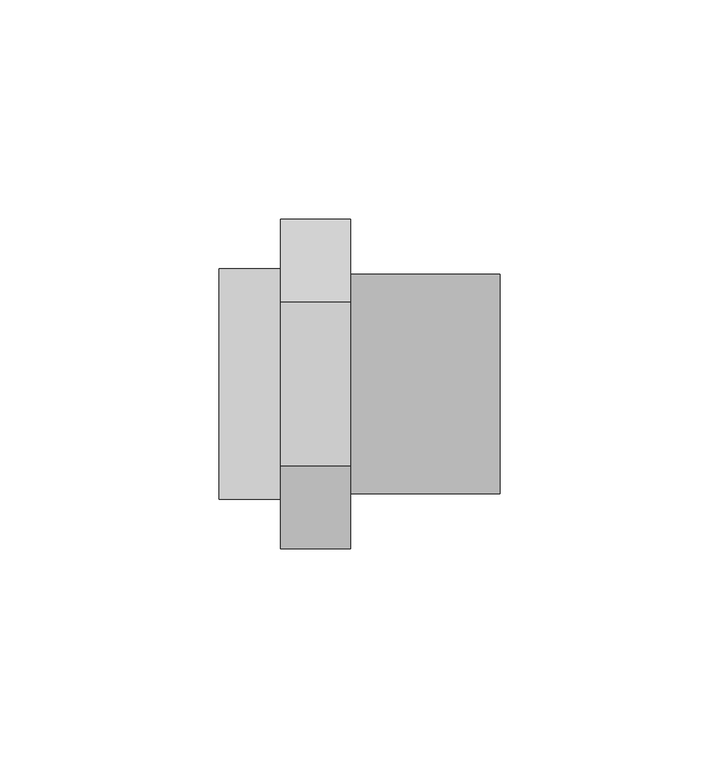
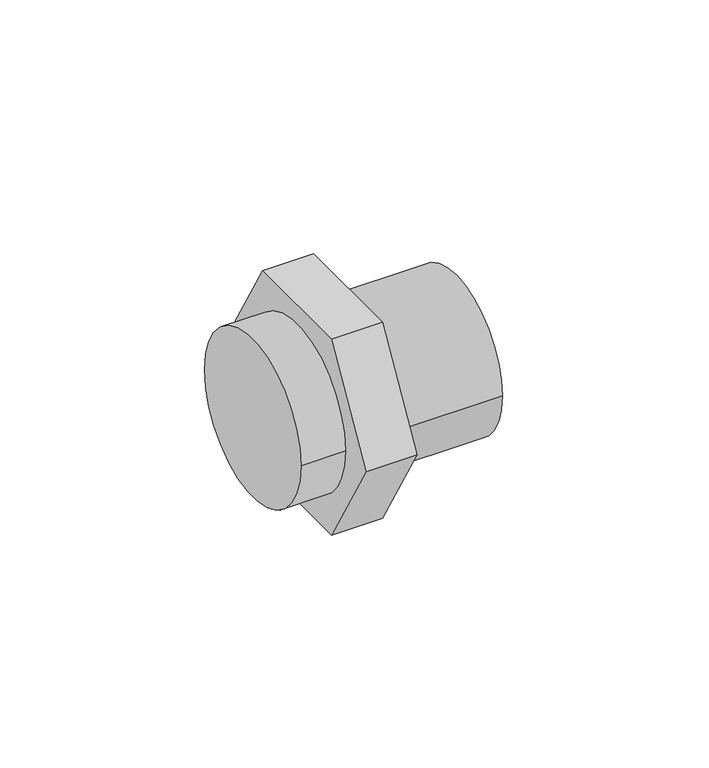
"""IFC4 building model written with IfcOpenShell, lengths in millimetres: pipe fitting geometry, 01101008 : Uniões múltiplas F/M/F."""

from ifc_helpers import new_model, si_unit, point, frame, origin, origin_2d, place, context, project, spatial, polyline, circle_curve, trimmed, segment, composite_curve, outline, extrude, source, transform, mapped, element, save


def pipe_fitting_18e8a9cf(model_context):
    return source(origin(), model_context, "Body", "SweptSolid", [
        extrude(outline(composite_curve([segment(trimmed(circle_curve(origin_2d(), 26.25), [point((26.25, 0.0))], [point((-26.25, 0.0))], False, "CARTESIAN"), True, "CONTINUOUS"), segment(trimmed(circle_curve(origin_2d(), 26.25), [point((-26.25, 0.0))], [point((26.25, 0.0))], False, "CARTESIAN"), True, "CONTINUOUS")], self_intersect=False)), frame((0.0, 0.0, 0.0), z_axis=(1.0, 0.0, 0.0), x_axis=(0.0, 1.0, 0.0)), (0.0, 0.0, 1.0), 14.0),
        extrude(outline(polyline([(-18.7638837, 32.5), (18.7638837, 32.5), (37.5277675, 0.0), (18.7638837, -32.5), (-18.7638837, -32.5), (-37.5277675, 0.0), (-18.7638837, 32.5)])), frame((14.0, 0.0, 0.0), z_axis=(1.0, 0.0, 0.0), x_axis=(0.0, 1.0, 0.0)), (0.0, 0.0, 1.0), 16.0),
        extrude(outline(composite_curve([segment(trimmed(circle_curve(origin_2d(), 25.0), [point((-25.0, 0.0))], [point((25.0, 0.0))], False, "CARTESIAN"), True, "CONTINUOUS"), segment(trimmed(circle_curve(origin_2d(), 25.0), [point((25.0, 0.0))], [point((-25.0, 0.0))], False, "CARTESIAN"), True, "CONTINUOUS")], self_intersect=False)), frame((30.0, 0.0, 0.0), z_axis=(1.0, 0.0, 0.0), x_axis=(0.0, 1.0, 0.0)), (0.0, 0.0, 1.0), 34.0),
    ])


if __name__ == "__main__":
    model = new_model("IFC4")
    model_context = context("Model", 3, world=origin())
    ifc_project = project(units=[si_unit("LENGTHUNIT", "METRE", prefix="MILLI")], contexts=[model_context])
    site = spatial("IfcSite", under=ifc_project)
    building = spatial("IfcBuilding", under=site)
    placement = place(None, origin())
    pipe_fitting_shape = pipe_fitting_18e8a9cf(model_context)
    element("IfcPipeFitting", 1, ObjectType="01101008 : Uniões múltiplas F/M/F", at=placement, inside=building, context=model_context, shape_type="MappedRepresentation", body=[
        mapped(pipe_fitting_shape, transform((0.0, 0.0, 0.0), x_axis=(1.0, 0.0, 0.0), y_axis=(0.0, 1.0, 0.0), z_axis=(0.0, 0.0, 1.0))),
    ])
    save(model, "model.ifc")
